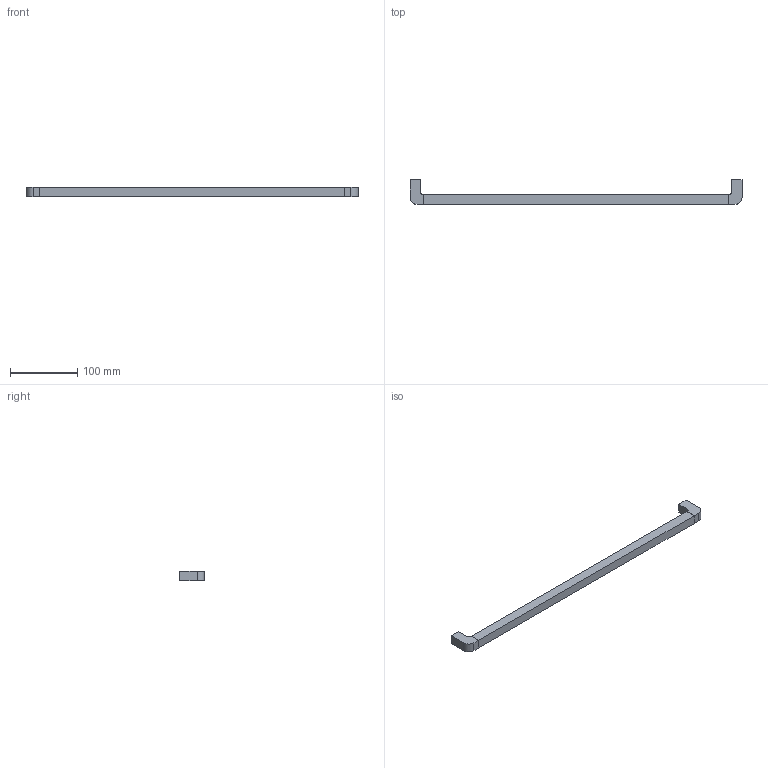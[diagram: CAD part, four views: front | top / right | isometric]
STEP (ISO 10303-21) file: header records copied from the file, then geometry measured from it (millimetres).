
FILE_DESCRIPTION( ( 'STEP AP214' ), '1' );
FILE_NAME( 'C:/Users/swati/Swati/Swati/modification/9207452/9207372.stp', ' ', ( ' ' ), ( ' ' ), 'PSStep 15.0.47', 'PARTsolutions', ' ' );
FILE_SCHEMA( ( 'AUTOMOTIVE_DESIGN { 1 0 10303 214 1 1 1 1 }' ) );
Length unit declared in the file: millimetre
Products named in the file (2): 95 ; _
Assembly tree (1 placements, depth 2):
  95 
    _
Bounding box: 494 x 37 x 14.2 mm (x, y, z)
Volume: 112608.7 mm3; surface area: 31634.5 mm2
Topology: 1 solids, 1 shells, 28 faces, 66 edges, 44 vertices
Faces by surface type: plane 22, cylinder 6
Full cylindrical faces by diameter (mm): 4 x2
Entity records: 1054 total; most frequent: CARTESIAN_POINT 138, DIRECTION 136, ORIENTED_EDGE 128, EDGE_CURVE 64, LINE 52, VECTOR 52, VERTEX_POINT 44, AXIS2_PLACEMENT_3D 42
